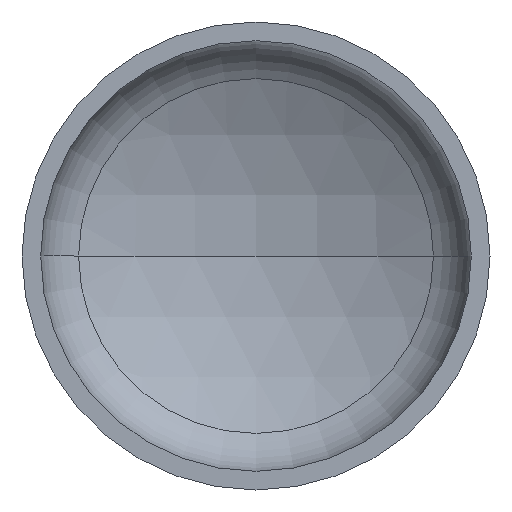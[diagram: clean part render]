
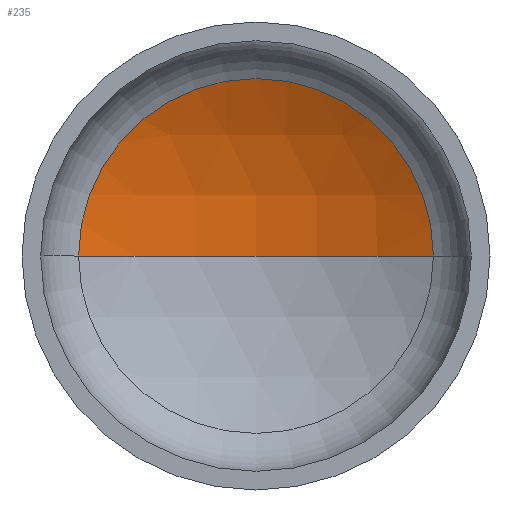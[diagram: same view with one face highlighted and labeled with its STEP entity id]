
A CAD part, front view. The second image highlights one B-rep face of the part: STEP entity #235.
In plain terms, the highlighted spherical face has radius 1040 mm.
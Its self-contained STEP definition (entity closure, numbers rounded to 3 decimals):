
#6 = DIRECTION ( 'NONE',  ( 0., 0., -1. ) ) ;
#22 = AXIS2_PLACEMENT_3D ( 'NONE', #174, #292, #144 ) ;
#23 = AXIS2_PLACEMENT_3D ( 'NONE', #172, #170, #171 ) ;
#27 = AXIS2_PLACEMENT_3D ( 'NONE', #187, #122, #125 ) ;
#29 = EDGE_LOOP ( 'NONE', ( #139, #79, #115 ) ) ;
#36 = AXIS2_PLACEMENT_3D ( 'NONE', #201, #6, #383 ) ;
#43 = VERTEX_POINT ( 'NONE', #293 ) ;
#79 = ORIENTED_EDGE ( 'NONE', *, *, #307, .T. ) ;
#97 = FACE_OUTER_BOUND ( 'NONE', #29, .T. ) ;
#99 = VERTEX_POINT ( 'NONE', #306 ) ;
#115 = ORIENTED_EDGE ( 'NONE', *, *, #302, .T. ) ;
#122 = DIRECTION ( 'NONE',  ( 0., -1., 0. ) ) ;
#125 = DIRECTION ( 'NONE',  ( 1., 0., 0. ) ) ;
#139 = ORIENTED_EDGE ( 'NONE', *, *, #314, .F. ) ;
#141 = VERTEX_POINT ( 'NONE', #221 ) ;
#144 = DIRECTION ( 'NONE',  ( 1., 0., 0. ) ) ;
#164 = CIRCLE ( 'NONE', #22, 1040. ) ;
#170 = DIRECTION ( 'NONE',  ( 0., 0., -1. ) ) ;
#171 = DIRECTION ( 'NONE',  ( -1., 0., 0. ) ) ;
#172 = CARTESIAN_POINT ( 'NONE',  ( 0., -619.727, 0. ) ) ;
#174 = CARTESIAN_POINT ( 'NONE',  ( 0., -619.727, 0. ) ) ;
#187 = CARTESIAN_POINT ( 'NONE',  ( 0., 296.125, 0. ) ) ;
#201 = CARTESIAN_POINT ( 'NONE',  ( 0., -619.727, 0. ) ) ;
#221 = CARTESIAN_POINT ( 'NONE',  ( 0., 420.273, 0. ) ) ;
#235 = ADVANCED_FACE ( 'NONE', ( #97 ), #372, .F. ) ;
#292 = DIRECTION ( 'NONE',  ( 0., 0., 1. ) ) ;
#293 = CARTESIAN_POINT ( 'NONE',  ( 492.762, 296.125, 0. ) ) ;
#302 = EDGE_CURVE ( 'NONE', #43, #99, #323, .T. ) ;
#306 = CARTESIAN_POINT ( 'NONE',  ( -492.762, 296.125, 0. ) ) ;
#307 = EDGE_CURVE ( 'NONE', #141, #43, #362, .T. ) ;
#314 = EDGE_CURVE ( 'NONE', #141, #99, #164, .T. ) ;
#323 = CIRCLE ( 'NONE', #27, 492.762 ) ;
#362 = CIRCLE ( 'NONE', #23, 1040. ) ;
#372 = SPHERICAL_SURFACE ( 'NONE', #36, 1040. ) ;
#383 = DIRECTION ( 'NONE',  ( -1., 0., 0. ) ) ;
